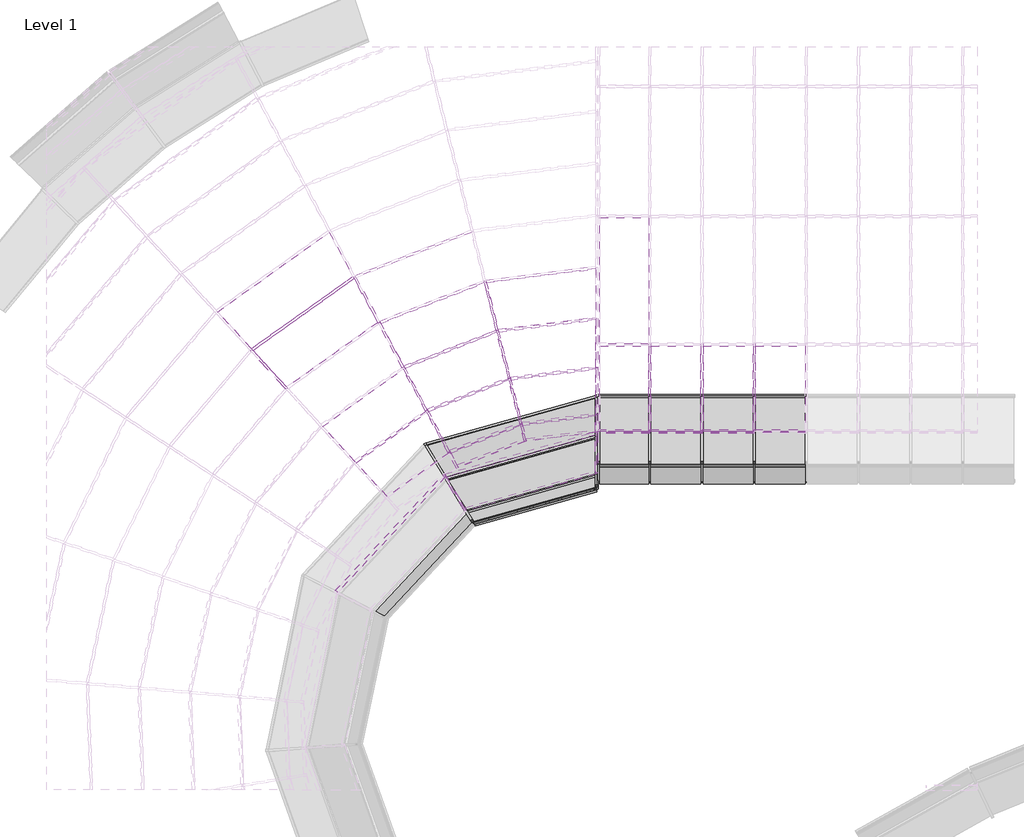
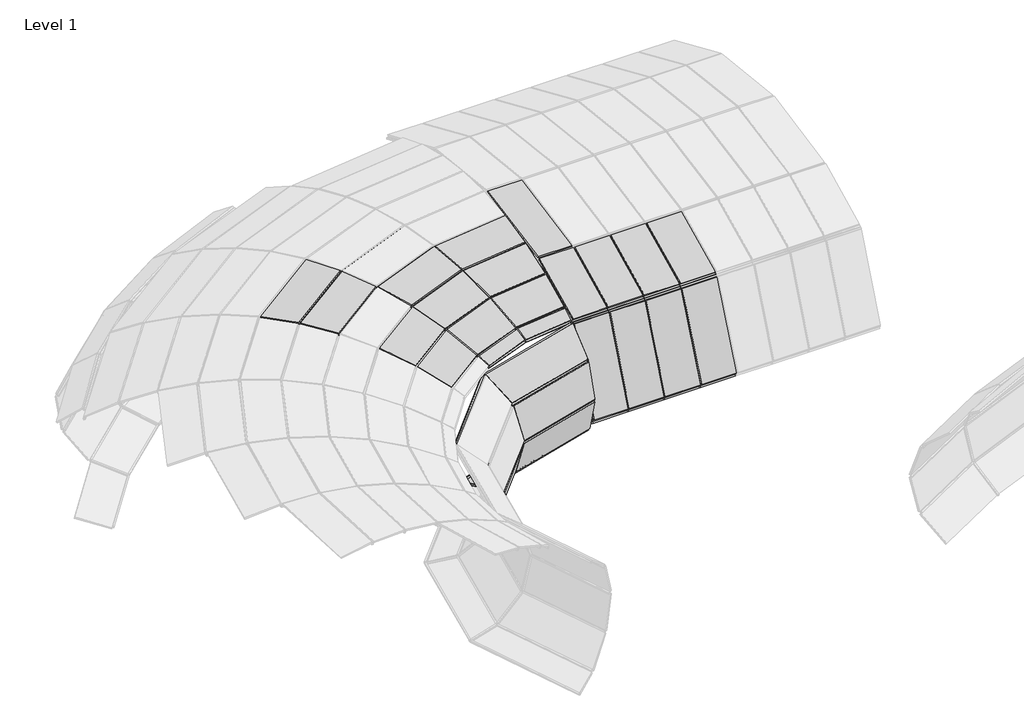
# One storey, part 15 of 23: 68 members, 31 plates.
"""IFC4 building model written with IfcOpenShell, lengths in millimetres."""

from ifc_helpers import new_model, si_unit, origin, place, context, project, spatial, transform, mapped, element, save
from components import member_0cd36c09, member_d0a40a1c, member_ff9adfd2, member_8c9da58c, member_391bee44, member_01ebdf2a, member_d6b8231b, member_c876edb5, member_40c6cd9d, member_782630c7, member_c2ddcf79, member_398e5ff5, member_398607d0, member_5099ef51, member_5ccaa950, member_a32a9cac, member_ff149431, member_8174f0e4, member_5f010dbd, member_0934fb4d, member_48ec9f95, member_f9960f3d, member_231912ba, member_602ccce8, member_4609ab2d, member_513a4f72, member_c8b9029b, member_4f4d7b95, member_a14fa40f, member_7b8779ad, member_ae0b3619, member_4a9ed0f7, member_e2c9c6a0, member_0f8f75f6, member_68981e21, member_3e1f1dd8, member_42213d33, member_25f397f4, member_9fdc8c74, member_14e241b9, system_panel_glazed_1f33159c, system_panel_glazed_b4bd1deb, system_panel_glazed_e8fc26b0, system_panel_glazed_ffd0fcf6, system_panel_glazed_aaff0bff, system_panel_glazed_fd5b3178, system_panel_glazed_84bc3224, system_panel_glazed_7646b435, system_panel_glazed_6cef0b5d, system_panel_glazed_4562f0d4, system_panel_glazed_008d1abf, system_panel_glazed_b2390fc1, system_panel_glazed_b1c1e64b, system_panel_glazed_18224c41, system_panel_glazed_5e00ce77, system_panel_glazed_f007ef7c, system_panel_glazed_efc33f1d, system_panel_glazed_acb1330b, system_panel_glazed_36155e08, system_panel_glazed_4484050c, system_panel_glazed_e9ed01da, system_panel_glazed_2151d693, system_panel_glazed_a8ce3bc7

model = new_model("IFC4")

# Units and contexts
model_context = context("Model", 3, world=origin())
ifc_project = project(units=[si_unit("LENGTHUNIT", "METRE", prefix="MILLI")], contexts=[model_context])

# Site, building, storey
site = spatial("IfcSite", under=ifc_project)
building = spatial("IfcBuilding", under=site)
storey = spatial("IfcBuildingStorey", under=building, Name="Level 1", Elevation=0.0)

# Members
placement = place(None, origin())
member_shape = member_0cd36c09(model_context)
element("IfcMember", 1, ObjectType="Rectangular Mullion : 1\" Square", at=placement, inside=storey, context=model_context, shape_type="MappedRepresentation", body=[
    mapped(member_shape, transform((-11231.3589072, 3870.3783497, 2806.2019711), x_axis=(-0.9695168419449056, -0.24502467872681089, 0.0), y_axis=(0.052313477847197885, -0.20699465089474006, 0.9769424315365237), z_axis=(-0.2393750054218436, 0.9471621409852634, 0.21350289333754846))),
])
element("IfcMember", 2, ObjectType="Rectangular Mullion : 1\" Square", at=placement, inside=storey, context=model_context, shape_type="MappedRepresentation", body=[
    mapped(member_shape, transform((-11085.4359039, 3292.9883085, 2676.0506073), x_axis=(-0.9695168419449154, -0.2450246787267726, 0.0), y_axis=(0.08044178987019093, -0.3182931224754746, 0.9445732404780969), z_axis=(-0.23144375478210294, 0.9157796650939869, 0.32830076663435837))),
])
element("IfcMember", 3, ObjectType="Rectangular Mullion : 1\" Square", at=placement, inside=storey, context=model_context, shape_type="MappedRepresentation", body=[
    mapped(member_shape, transform((-12757.688601, 3922.2566819, 2864.5209769), x_axis=(-0.8799258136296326, -0.4751111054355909, 0.0), y_axis=(0.04545276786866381, -0.08418044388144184, 0.9954133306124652), z_axis=(-0.4729319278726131, 0.8758898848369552, 0.09566766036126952))),
])
element("IfcMember", 4, ObjectType="Rectangular Mullion : 1\" Square", at=placement, inside=storey, context=model_context, shape_type="MappedRepresentation", body=[
    mapped(member_shape, transform((-12469.3892978, 3388.3142081, 2806.2019711), x_axis=(-0.87992581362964, -0.4751111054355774, 0.0), y_axis=(0.10143759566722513, -0.1878667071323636, 0.9769424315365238), z_axis=(-0.46415619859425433, 0.8596368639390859, 0.21350289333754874))),
])
element("IfcMember", 5, ObjectType="Rectangular Mullion : 1\" Square", at=placement, inside=storey, context=model_context, shape_type="MappedRepresentation", body=[
    mapped(member_shape, transform((-12186.4396791, 2864.2795759, 2676.0506073), x_axis=(-0.879925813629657, -0.47511110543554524, 0.0), y_axis=(0.1559793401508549, -0.28888031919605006, 0.9445732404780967), z_axis=(-0.4487772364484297, 0.8311543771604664, 0.32830076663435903))),
])
element("IfcMember", 6, ObjectType="Rectangular Mullion : 1\" Square", at=placement, inside=storey, context=model_context, shape_type="MappedRepresentation", body=[
    mapped(member_shape, transform((-13961.9031139, 3064.6226821, 2864.5209769), x_axis=(-0.7366889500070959, -0.6762317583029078, 0.0), y_axis=(0.0646935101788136, -0.07047730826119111, 0.9954133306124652), z_axis=(-0.6731301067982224, 0.7333100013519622, 0.09566766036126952))),
])
member_2_shape = member_d0a40a1c(model_context)
element("IfcMember", 7, ObjectType="Rectangular Mullion : 1\" Square", at=placement, inside=storey, context=model_context, shape_type="MappedRepresentation", body=[
    mapped(member_2_shape, transform((-10944.347791, 2734.7290247, 2475.91846), x_axis=(-0.9695168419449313, -0.24502467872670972, 0.0), y_axis=(0.10742571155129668, -0.4250634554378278, 0.8987662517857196), z_axis=(-0.22021991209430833, 0.8713690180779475, 0.43842812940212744))),
])
element("IfcMember", 8, ObjectType="Rectangular Mullion : 1\" Square", at=placement, inside=storey, context=model_context, shape_type="MappedRepresentation", body=[
    mapped(member_2_shape, transform((-11912.8650758, 2357.6078676, 2475.91846), x_axis=(-0.8799258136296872, -0.47511110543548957, 0.0), y_axis=(0.2083020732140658, -0.38578422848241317, 0.8987662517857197), z_axis=(-0.42701382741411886, 0.7908476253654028, 0.4384281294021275))),
])
member_3_shape = member_ff9adfd2(model_context)
element("IfcMember", 9, ObjectType="Rectangular Mullion : 1\" Square", at=placement, inside=storey, context=model_context, shape_type="MappedRepresentation", body=[
    mapped(member_3_shape, transform((-10810.1017326, 2203.5424713, 2208.6526723), x_axis=(-0.9695168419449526, -0.2450246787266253, 0.0), y_axis=(0.1253559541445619, -0.49601007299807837, 0.8592205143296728), z_axis=(-0.21053023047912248, 0.8330287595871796, 0.5116054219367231))),
])
element("IfcMember", 10, ObjectType="Rectangular Mullion : 1\" Square", at=placement, inside=storey, context=model_context, shape_type="MappedRepresentation", body=[
    mapped(member_3_shape, transform((-11652.5574466, 1875.5071551, 2208.6526723), x_axis=(-0.8799258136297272, -0.47511110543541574, 0.0), y_axis=(0.24306941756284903, -0.45017481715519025, 0.8592205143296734), z_axis=(-0.408225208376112, 0.7560503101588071, 0.5116054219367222))),
])
member_4_shape = member_8c9da58c(model_context)
element("IfcMember", 11, ObjectType="Rectangular Mullion : 1\" Square", at=placement, inside=storey, context=model_context, shape_type="MappedRepresentation", body=[
    mapped(member_4_shape, transform((-11465.6793889, 1203.5836746, 1696.6281859), x_axis=(-0.8541071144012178, -0.5200971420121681, 0.0), y_axis=(0.49521537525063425, -0.8132461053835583, 0.30560187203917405), z_axis=(-0.15894266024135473, 0.26101673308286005, 0.952159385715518))),
])
element("IfcMember", 12, ObjectType="Rectangular Mullion : 1\" Square", at=placement, inside=storey, context=model_context, shape_type="MappedRepresentation", body=[
    mapped(member_4_shape, transform((-11368.7879432, 1044.4678741, 1116.1918244), x_axis=(-0.8541071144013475, -0.5200971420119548, 0.0), y_axis=(0.5029310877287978, -0.8259169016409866, -0.25479715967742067), z_axis=(0.13251927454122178, -0.2176240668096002, 0.9669945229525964))),
])
member_5_shape = member_391bee44(model_context)
element("IfcMember", 13, ObjectType="Rectangular Mullion : 1\" Square", at=placement, inside=storey, context=model_context, shape_type="MappedRepresentation", body=[
    mapped(member_5_shape, transform((-11449.571693, 1177.1315052, 526.7119632), x_axis=(-0.8541071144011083, -0.5200971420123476, 0.0), y_axis=(0.3525920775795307, -0.5790291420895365, -0.7351218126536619), z_axis=(0.3823347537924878, -0.6278727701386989, 0.6779350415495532))),
])
member_6_shape = member_01ebdf2a(model_context)
element("IfcMember", 14, ObjectType="Rectangular Mullion : 1\" Square", at=placement, inside=storey, context=model_context, shape_type="MappedRepresentation", body=[
    mapped(member_6_shape, transform((-11682.6429589, 1559.8827459, 113.4427618), x_axis=(-0.85410711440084, -0.520097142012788, 0.0), y_axis=(0.11878459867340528, -0.19506888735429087, -0.9735698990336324), z_axis=(0.5063509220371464, -0.831532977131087, 0.22838925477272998))),
])
member_7_shape = member_d6b8231b(model_context)
element("IfcMember", 15, ObjectType="Rectangular Mullion : 1\" Square", at=placement, inside=storey, context=model_context, shape_type="MappedRepresentation", body=[
    mapped(member_7_shape, transform((-11709.796231, 1604.4740366, 2085.6089632), x_axis=(-0.8541071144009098, -0.5200971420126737, 0.0), y_axis=(0.331869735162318, -0.5449987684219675, 0.769960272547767), z_axis=(-0.400454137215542, 0.6576285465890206, 0.6380918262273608))),
])
member_8_shape = member_c876edb5(model_context)
element("IfcMember", 16, ObjectType="Rectangular Mullion : 1\" Square", at=placement, inside=storey, context=model_context, shape_type="MappedRepresentation", body=[
    mapped(member_8_shape, transform((-12174.6051838, 2868.8876904, 2676.0506073), x_axis=(0.34938601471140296, -0.8972882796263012, -0.26982059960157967), y_axis=(0.09790269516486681, -0.2514323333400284, 0.962910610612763), z_axis=(-0.9318500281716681, -0.3628436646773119, 0.0))),
])
member_9_shape = member_40c6cd9d(model_context)
element("IfcMember", 17, ObjectType="Rectangular Mullion : 1\" Square", at=placement, inside=storey, context=model_context, shape_type="MappedRepresentation", body=[
    mapped(member_9_shape, transform((-10931.7449467, 2736.2969259, 2475.91846), x_axis=(0.11409837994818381, -0.9171267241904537, -0.3819163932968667), y_axis=(0.04715017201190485, -0.37899471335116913, 0.9241968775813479), z_axis=(-0.9923499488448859, -0.12345679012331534, 0.0))),
])
member_10_shape = member_782630c7(model_context)
element("IfcMember", 18, ObjectType="Rectangular Mullion : 1\" Square", at=placement, inside=storey, context=model_context, shape_type="MappedRepresentation", body=[
    mapped(member_10_shape, transform((-11901.0305804, 2362.2159821, 2475.91846), x_axis=(0.3353389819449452, -0.8612128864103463, -0.3819163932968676), y_axis=(0.13857594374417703, -0.35588880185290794, 0.9241968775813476), z_axis=(-0.9318500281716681, -0.362843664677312, 0.0))),
])
member_11_shape = member_c2ddcf79(model_context)
element("IfcMember", 19, ObjectType="Rectangular Mullion : 1\" Square", at=placement, inside=storey, context=model_context, shape_type="MappedRepresentation", body=[
    mapped(member_11_shape, transform((-10797.4988883, 2205.1103725, 2208.6526723), x_axis=(0.10770495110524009, -0.8657361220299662, -0.48877460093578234), y_axis=(0.060342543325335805, -0.48503545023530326, 0.8724101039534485), z_axis=(-0.9923499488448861, -0.12345679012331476, 0.0))),
])
member_12_shape = member_398e5ff5(model_context)
element("IfcMember", 20, ObjectType="Rectangular Mullion : 1\" Square", at=placement, inside=storey, context=model_context, shape_type="MappedRepresentation", body=[
    mapped(member_12_shape, transform((-11640.7229512, 1880.1152697, 2208.6526723), x_axis=(0.31654847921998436, -0.8129553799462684, -0.4887746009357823), y_axis=(0.17734876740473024, -0.4554646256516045, 0.8724101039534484), z_axis=(-0.9318500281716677, -0.3628436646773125, 0.0))),
])
member_13_shape = member_398607d0(model_context)
element("IfcMember", 21, ObjectType="Rectangular Mullion : 1\" Square", at=placement, inside=storey, context=model_context, shape_type="MappedRepresentation", body=[
    mapped(member_13_shape, transform((-12745.8541056, 3926.8647965, 2864.5209769), x_axis=(0.3626062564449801, -0.9312403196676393, -0.03616863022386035), y_axis=(0.013123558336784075, -0.0337037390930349, 0.9993457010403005), z_axis=(-0.9318500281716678, -0.362843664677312, 0.0))),
])
element("IfcMember", 22, ObjectType="Rectangular Mullion : 1\" Square", at=placement, inside=storey, context=model_context, shape_type="MappedRepresentation", body=[
    mapped(member_13_shape, transform((-13951.5584731, 3071.9900702, 2864.5209769), x_axis=(0.5797297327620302, -0.8140056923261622, -0.03616863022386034), y_axis=(0.020981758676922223, -0.029460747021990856, 0.9993457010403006), z_axis=(-0.8145386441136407, -0.580109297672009, 0.0))),
])
member_14_shape = member_5099ef51(model_context)
element("IfcMember", 23, ObjectType="Rectangular Mullion : 1\" Square", at=placement, inside=storey, context=model_context, shape_type="MappedRepresentation", body=[
    mapped(member_14_shape, transform((-11218.7560629, 3871.9462509, 2806.2019711), x_axis=(0.12198324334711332, -0.9805055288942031, -0.15404218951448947), y_axis=(0.019017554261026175, -0.1528637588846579, 0.9880642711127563), z_axis=(-0.9923499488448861, -0.12345679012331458, 0.0))),
])
member_15_shape = member_5ccaa950(model_context)
element("IfcMember", 24, ObjectType="Rectangular Mullion : 1\" Square", at=placement, inside=storey, context=model_context, shape_type="MappedRepresentation", body=[
    mapped(member_15_shape, transform((-12457.5548024, 3392.9223227, 2806.2019711), x_axis=(0.35851286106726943, -0.9207277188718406, -0.15404218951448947), y_axis=(0.05589323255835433, -0.14354421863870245, 0.9880642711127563), z_axis=(-0.9318500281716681, -0.3628436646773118, 0.0))),
])
member_16_shape = member_a32a9cac(model_context)
element("IfcMember", 25, ObjectType="Rectangular Mullion : 1\" Square", at=placement, inside=storey, context=model_context, shape_type="MappedRepresentation", body=[
    mapped(member_16_shape, transform((-11072.8330596, 3294.5562098, 2676.0506073), x_axis=(0.11887785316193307, -0.9555442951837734, -0.26982059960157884), y_axis=(0.03331118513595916, -0.2677564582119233, 0.9629106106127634), z_axis=(-0.9923499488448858, -0.12345679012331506, 0.0))),
])
member_17_shape = member_ff149431(model_context)
element("IfcMember", 26, ObjectType="Rectangular Mullion : 1\" Square", at=placement, inside=storey, context=model_context, shape_type="MappedRepresentation", body=[
    mapped(member_17_shape, transform((-10746.8652958, 2004.7627139, 2085.6089632), x_axis=(0.10586239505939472, -0.8509255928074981, -0.5145082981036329), y_axis=(0.06351954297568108, -0.5105722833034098, 0.8574853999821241), z_axis=(-0.9923499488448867, -0.12345679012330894, 0.0))),
])
member_18_shape = member_8174f0e4(model_context)
element("IfcMember", 27, ObjectType="Rectangular Mullion : 1\" Square", at=placement, inside=storey, context=model_context, shape_type="MappedRepresentation", body=[
    mapped(member_18_shape, transform((-11542.5427099, 1698.2813201, 2085.6089632), x_axis=(0.3111331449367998, -0.7990477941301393, -0.5145082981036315), y_axis=(0.18668607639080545, -0.47944457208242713, 0.8574853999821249), z_axis=(-0.9318500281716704, -0.362843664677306, 0.0))),
])
member_19_shape = member_5f010dbd(model_context)
element("IfcMember", 28, ObjectType="Rectangular Mullion : 1\" Square", at=placement, inside=storey, context=model_context, shape_type="MappedRepresentation", body=[
    mapped(member_19_shape, transform((-9912.9499814, 2863.0437014, 2475.91846), x_axis=(0.9991669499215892, 0.01339775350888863, -0.038547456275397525), y_axis=(0.040809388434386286, -0.3280272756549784, 0.9437863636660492), z_axis=(0.0, -0.9445732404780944, -0.3283007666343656))),
])
member_20_shape = member_0934fb4d(model_context)
element("IfcMember", 29, ObjectType="Rectangular Mullion : 1\" Square", at=placement, inside=storey, context=model_context, shape_type="MappedRepresentation", body=[
    mapped(member_20_shape, transform((-9912.9499814, 2315.1557944, 2208.6526723), x_axis=(0.9985157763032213, 0.023878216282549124, -0.0489497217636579), y_axis=(0.054463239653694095, -0.43777740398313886, 0.8974322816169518), z_axis=(0.0, -0.8987662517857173, -0.438428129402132))),
])
member_21_shape = member_48ec9f95(model_context)
element("IfcMember", 30, ObjectType="Rectangular Mullion : 1\" Square", at=placement, inside=storey, context=model_context, shape_type="MappedRepresentation", body=[
    mapped(member_21_shape, transform((-9912.9499814, 2108.5088854, 2085.6089632), x_axis=(0.9979805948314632, 0.03249694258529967, -0.05457729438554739), y_axis=(0.06351954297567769, -0.5105722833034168, 0.85748539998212), z_axis=(0.0, -0.8592205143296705, -0.5116054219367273))),
])
member_22_shape = member_f9960f3d(model_context)
element("IfcMember", 31, ObjectType="Rectangular Mullion : 1\" Square", at=placement, inside=storey, context=model_context, shape_type="MappedRepresentation", body=[
    mapped(member_22_shape, transform((-11356.5599234, 1047.8979662, 1116.1918244), x_axis=(0.007390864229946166, -0.026347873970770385, -0.9996255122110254), y_axis=(0.26998484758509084, -0.962475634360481, 0.02736485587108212), z_axis=(-0.9628362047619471, -0.27008599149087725, 0.0))),
])
member_23_shape = member_231912ba(model_context)
element("IfcMember", 32, ObjectType="Rectangular Mullion : 1\" Square", at=placement, inside=storey, context=model_context, shape_type="MappedRepresentation", body=[
    mapped(member_23_shape, transform((-11921.9234749, 1976.3418904, 0.0), x_axis=(-0.2624096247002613, 0.9354705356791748, -0.23671938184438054), y_axis=(0.0639345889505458, -0.2279219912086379, -0.9715780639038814), z_axis=(-0.9628362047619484, -0.27008599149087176, 0.0))),
])
member_24_shape = member_602ccce8(model_context)
element("IfcMember", 33, ObjectType="Rectangular Mullion : 1\" Square", at=placement, inside=storey, context=model_context, shape_type="MappedRepresentation", body=[
    mapped(member_24_shape, transform((-11437.3436732, 1180.5615973, 526.7119632), x_axis=(-0.1426560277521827, 0.5085579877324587, -0.8491278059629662), y_axis=(0.22933752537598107, -0.8175709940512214, -0.5281874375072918), z_axis=(-0.962836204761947, -0.27008599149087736, 0.0))),
])
member_25_shape = member_4609ab2d(model_context)
element("IfcMember", 34, ObjectType="Rectangular Mullion : 1\" Square", at=placement, inside=storey, context=model_context, shape_type="MappedRepresentation", body=[
    mapped(member_25_shape, transform((-11670.4149391, 1563.312838, 113.4427618), x_axis=(-0.24330787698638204, 0.8673742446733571, -0.4341234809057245), y_axis=(0.11725067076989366, -0.4179898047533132, -0.9008533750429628), z_axis=(-0.962836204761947, -0.27008599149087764, 0.0))),
])
member_26_shape = member_513a4f72(model_context)
element("IfcMember", 35, ObjectType="Rectangular Mullion : 1\" Square", at=placement, inside=storey, context=model_context, shape_type="MappedRepresentation", body=[
    mapped(member_26_shape, transform((-11453.4513691, 1207.0137667, 1696.6281859), x_axis=(0.1547369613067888, -0.5516256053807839, -0.8196131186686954), y_axis=(0.2213660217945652, -0.78915318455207, 0.572917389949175), z_axis=(-0.9628362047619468, -0.27008599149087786, 0.0))),
])
member_27_shape = member_c8b9029b(model_context)
element("IfcMember", 36, ObjectType="Rectangular Mullion : 1\" Square", at=placement, inside=storey, context=model_context, shape_type="MappedRepresentation", body=[
    mapped(member_27_shape, transform((-11718.4562886, 1595.1846124, 2085.6089632), x_axis=(-0.5543774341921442, 0.5168178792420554, 0.652353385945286), y_axis=(0.47716435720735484, -0.4448360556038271, 0.7579149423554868), z_axis=(0.6818943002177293, 0.7314507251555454, 0.0))),
])
member_28_shape = member_4f4d7b95(model_context)
element("IfcMember", 37, ObjectType="Rectangular Mullion : 1\" Square", at=placement, inside=storey, context=model_context, shape_type="MappedRepresentation", body=[
    mapped(member_28_shape, transform((-9937.406021, 2101.6487012, 2085.6089632), x_axis=(-0.2047022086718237, 0.7297479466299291, 0.652353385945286), y_axis=(0.17619151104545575, -0.628109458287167, 0.7579149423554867), z_axis=(0.9628362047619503, 0.2700859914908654, 0.0))),
])
member_29_shape = member_a14fa40f(model_context)
element("IfcMember", 38, ObjectType="Rectangular Mullion : 1\" Square", at=placement, inside=storey, context=model_context, shape_type="MappedRepresentation", body=[
    mapped(member_29_shape, transform((-9912.9499814, 2539.8807303, 0.0), x_axis=(0.9979540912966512, 0.014601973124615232, 0.0622447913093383), y_axis=(0.06393458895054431, -0.22792199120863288, -0.9715780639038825), z_axis=(0.0, 0.9735698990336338, -0.22838925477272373))),
])
member_30_shape = member_7b8779ad(model_context)
element("IfcMember", 39, ObjectType="Rectangular Mullion : 1\" Square", at=placement, inside=storey, context=model_context, shape_type="MappedRepresentation", body=[
    mapped(member_30_shape, transform((-9912.9499814, 1639.1411032, 1696.6281859), x_axis=(0.9843559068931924, 0.11242636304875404, -0.13566046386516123), y_axis=(0.17619151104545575, -0.6281094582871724, 0.7579149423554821), z_axis=(0.0, -0.7699602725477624, -0.6380918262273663))),
])
member_31_shape = member_ae0b3619(model_context)
element("IfcMember", 40, ObjectType="Rectangular Mullion : 1\" Square", at=placement, inside=storey, context=model_context, shape_type="MappedRepresentation", body=[
    mapped(member_31_shape, transform((-9912.9499814, 1452.846202, 1116.1918244), x_axis=(0.9661327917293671, 0.24570035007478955, -0.07885915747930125), y_axis=(0.25804540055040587, -0.9199124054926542, 0.2952519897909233), z_axis=(0.0, -0.30560187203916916, -0.9521593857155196))),
])
member_32_shape = member_4a9ed0f7(model_context)
element("IfcMember", 41, ObjectType="Rectangular Mullion : 1\" Square", at=placement, inside=storey, context=model_context, shape_type="MappedRepresentation", body=[
    mapped(member_32_shape, transform((-9912.9499814, 1608.1705506, 526.7119632), x_axis=(0.9651242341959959, 0.25315172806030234, 0.06670393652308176), y_axis=(0.2617923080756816, -0.933269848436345, -0.2459109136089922), z_axis=(0.0, 0.2547971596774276, -0.9669945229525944))),
])
member_33_shape = member_e2c9c6a0(model_context)
element("IfcMember", 42, ObjectType="Rectangular Mullion : 1\" Square", at=placement, inside=storey, context=model_context, shape_type="MappedRepresentation", body=[
    mapped(member_33_shape, transform((-9912.9499814, 2056.3008076, 113.4427618), x_axis=(0.9823941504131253, 0.12665186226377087, 0.13733549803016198), y_axis=(0.18682005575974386, -0.665999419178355, -0.7221793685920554), z_axis=(0.0, 0.7351218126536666, -0.6779350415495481))),
])
member_34_shape = member_0f8f75f6(model_context)
element("IfcMember", 43, ObjectType="Rectangular Mullion : 1\" Square", at=placement, inside=storey, context=model_context, shape_type="MappedRepresentation", body=[
    mapped(member_34_shape, transform((-8693.7499814, 2518.7804857, 14.1400027), x_axis=(1.0, 0.0, 0.0), y_axis=(0.0, -0.5566930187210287, -0.8307182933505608), z_axis=(0.0, 0.8307182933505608, -0.5566930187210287))),
])
element("IfcMember", 44, ObjectType="Rectangular Mullion : 1\" Square", at=placement, inside=storey, context=model_context, shape_type="MappedRepresentation", body=[
    mapped(member_34_shape, transform((-9303.3499814, 2518.7804857, 14.1400027), x_axis=(1.0, 0.0, 0.0), y_axis=(0.0, -0.5566930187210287, -0.8307182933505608), z_axis=(0.0, 0.8307182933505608, -0.5566930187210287))),
])
element("IfcMember", 45, ObjectType="Rectangular Mullion : 1\" Square", at=placement, inside=storey, context=model_context, shape_type="MappedRepresentation", body=[
    mapped(member_34_shape, transform((-8084.1499814, 2518.7804857, 14.1400027), x_axis=(1.0, 0.0, 0.0), y_axis=(0.0, -0.5566930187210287, -0.8307182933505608), z_axis=(0.0, 0.8307182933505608, -0.5566930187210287))),
])
member_35_shape = member_68981e21(model_context)
element("IfcMember", 46, ObjectType="Rectangular Mullion : 1\" Square", at=placement, inside=storey, context=model_context, shape_type="MappedRepresentation", body=[
    mapped(member_35_shape, transform((-9303.3499814, 2539.8807303, 0.0), x_axis=(0.0, 0.8307182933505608, -0.5566930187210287), y_axis=(0.0, -0.5566930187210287, -0.8307182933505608), z_axis=(-1.0, 0.0, 0.0))),
])
element("IfcMember", 47, ObjectType="Rectangular Mullion : 1\" Square", at=placement, inside=storey, context=model_context, shape_type="MappedRepresentation", body=[
    mapped(member_35_shape, transform((-8693.7499814, 2539.8807303, 0.0), x_axis=(0.0, 0.8307182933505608, -0.5566930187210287), y_axis=(0.0, -0.5566930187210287, -0.8307182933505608), z_axis=(-1.0, 0.0, 0.0))),
])
element("IfcMember", 48, ObjectType="Rectangular Mullion : 1\" Square", at=placement, inside=storey, context=model_context, shape_type="MappedRepresentation", body=[
    mapped(member_35_shape, transform((-8084.1499814, 2539.8807303, 0.0), x_axis=(0.0, 0.8307182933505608, -0.5566930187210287), y_axis=(0.0, -0.5566930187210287, -0.8307182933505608), z_axis=(-1.0, 0.0, 0.0))),
])
element("IfcMember", 49, ObjectType="Rectangular Mullion : 1\" Square", at=placement, inside=storey, context=model_context, shape_type="MappedRepresentation", body=[
    mapped(member_35_shape, transform((-9303.3499814, 2108.5088854, 2085.6089632), x_axis=(0.0, -0.9009025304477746, -0.4340214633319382), y_axis=(0.0, -0.4340214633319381, 0.9009025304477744), z_axis=(-1.0, 0.0, 0.0))),
])
element("IfcMember", 50, ObjectType="Rectangular Mullion : 1\" Square", at=placement, inside=storey, context=model_context, shape_type="MappedRepresentation", body=[
    mapped(member_35_shape, transform((-8693.7499814, 2108.5088854, 2085.6089632), x_axis=(0.0, -0.9009025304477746, -0.4340214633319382), y_axis=(0.0, -0.4340214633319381, 0.9009025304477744), z_axis=(-1.0, 0.0, 0.0))),
])
element("IfcMember", 51, ObjectType="Rectangular Mullion : 1\" Square", at=placement, inside=storey, context=model_context, shape_type="MappedRepresentation", body=[
    mapped(member_35_shape, transform((-8084.1499814, 2108.5088854, 2085.6089632), x_axis=(0.0, -0.9009025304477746, -0.4340214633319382), y_axis=(0.0, -0.4340214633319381, 0.9009025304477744), z_axis=(-1.0, 0.0, 0.0))),
])
member_36_shape = member_3e1f1dd8(model_context)
element("IfcMember", 52, ObjectType="Rectangular Mullion : 1\" Square", at=placement, inside=storey, context=model_context, shape_type="MappedRepresentation", body=[
    mapped(member_36_shape, transform((-9303.3499814, 1534.1192339, 673.9955146), x_axis=(0.0, 0.38018576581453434, -0.9249101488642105), y_axis=(0.0, -0.9249101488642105, -0.38018576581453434), z_axis=(-1.0, 0.0, 0.0))),
])
element("IfcMember", 53, ObjectType="Rectangular Mullion : 1\" Square", at=placement, inside=storey, context=model_context, shape_type="MappedRepresentation", body=[
    mapped(member_36_shape, transform((-8693.7499814, 1534.1192339, 673.9955146), x_axis=(0.0, 0.38018576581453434, -0.9249101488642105), y_axis=(0.0, -0.9249101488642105, -0.38018576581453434), z_axis=(-1.0, 0.0, 0.0))),
])
element("IfcMember", 54, ObjectType="Rectangular Mullion : 1\" Square", at=placement, inside=storey, context=model_context, shape_type="MappedRepresentation", body=[
    mapped(member_36_shape, transform((-8084.1499814, 1534.1192339, 673.9955146), x_axis=(0.0, 0.38018576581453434, -0.9249101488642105), y_axis=(0.0, -0.9249101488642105, -0.38018576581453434), z_axis=(-1.0, 0.0, 0.0))),
])
element("IfcMember", 55, ObjectType="Rectangular Mullion : 1\" Square", at=placement, inside=storey, context=model_context, shape_type="MappedRepresentation", body=[
    mapped(member_36_shape, transform((-9912.9499814, 1534.1192339, 673.9955146), x_axis=(0.0, 0.38018576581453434, -0.9249101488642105), y_axis=(0.0, -0.9249101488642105, -0.38018576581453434), z_axis=(-1.0, 0.0, 0.0))),
])
member_37_shape = member_42213d33(model_context)
element("IfcMember", 56, ObjectType="Rectangular Mullion : 1\" Square", at=placement, inside=storey, context=model_context, shape_type="MappedRepresentation", body=[
    mapped(member_37_shape, transform((-9303.3499814, 1538.9058143, 685.75896), x_axis=(1.0, 0.0, 0.0), y_axis=(0.0, -0.9262555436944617, 0.37689609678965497), z_axis=(0.0, -0.3768960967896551, -0.926255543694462))),
])
element("IfcMember", 57, ObjectType="Rectangular Mullion : 1\" Square", at=placement, inside=storey, context=model_context, shape_type="MappedRepresentation", body=[
    mapped(member_37_shape, transform((-8693.7499814, 1538.9058143, 685.75896), x_axis=(1.0, 0.0, 0.0), y_axis=(0.0, -0.926255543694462, 0.3768960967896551), z_axis=(0.0, -0.37689609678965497, -0.9262555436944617))),
])
element("IfcMember", 58, ObjectType="Rectangular Mullion : 1\" Square", at=placement, inside=storey, context=model_context, shape_type="MappedRepresentation", body=[
    mapped(member_37_shape, transform((-8084.1499814, 1538.9058143, 685.75896), x_axis=(1.0, 0.0, 0.0), y_axis=(0.0, -0.926255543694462, 0.3768960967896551), z_axis=(0.0, -0.37689609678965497, -0.9262555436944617))),
])
element("IfcMember", 59, ObjectType="Rectangular Mullion : 1\" Square", at=placement, inside=storey, context=model_context, shape_type="MappedRepresentation", body=[
    mapped(member_35_shape, transform((-9912.9499814, 2539.8807303, 0.0), x_axis=(0.0, 0.8307182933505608, -0.5566930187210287), y_axis=(0.0, -0.5566930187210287, -0.8307182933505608), z_axis=(-1.0, 0.0, 0.0))),
])
element("IfcMember", 60, ObjectType="Rectangular Mullion : 1\" Square", at=placement, inside=storey, context=model_context, shape_type="MappedRepresentation", body=[
    mapped(member_35_shape, transform((-9912.9499814, 2108.5088854, 2085.6089632), x_axis=(0.0, -0.9009025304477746, -0.4340214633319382), y_axis=(0.0, -0.4340214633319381, 0.9009025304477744), z_axis=(-1.0, 0.0, 0.0))),
])
member_38_shape = member_25f397f4(model_context)
element("IfcMember", 61, ObjectType="Rectangular Mullion : 1\" Square", at=placement, inside=storey, context=model_context, shape_type="MappedRepresentation", body=[
    mapped(member_38_shape, transform((-9912.9499814, 2098.9357245, 2062.0820723), x_axis=(-1.0, 0.0, 0.0), y_axis=(0.0, -0.9262555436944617, 0.37689609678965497), z_axis=(0.0, 0.3768960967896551, 0.926255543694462))),
])
element("IfcMember", 62, ObjectType="Rectangular Mullion : 1\" Square", at=placement, inside=storey, context=model_context, shape_type="MappedRepresentation", body=[
    mapped(member_35_shape, transform((-8693.7499814, 2108.5088854, 2085.6089632), x_axis=(0.0, 0.37689609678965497, 0.9262555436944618), y_axis=(0.0, -0.9262555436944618, 0.37689609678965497), z_axis=(1.0, 0.0, 0.0))),
])
element("IfcMember", 63, ObjectType="Rectangular Mullion : 1\" Square", at=placement, inside=storey, context=model_context, shape_type="MappedRepresentation", body=[
    mapped(member_35_shape, transform((-8084.1499814, 2108.5088854, 2085.6089632), x_axis=(0.0, 0.37689609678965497, 0.9262555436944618), y_axis=(0.0, -0.9262555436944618, 0.37689609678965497), z_axis=(1.0, 0.0, 0.0))),
])
member_39_shape = member_9fdc8c74(model_context)
element("IfcMember", 64, ObjectType="Rectangular Mullion : 1\" Square", at=placement, inside=storey, context=model_context, shape_type="MappedRepresentation", body=[
    mapped(member_39_shape, transform((-9912.9499814, 1544.6693562, 666.9255132), x_axis=(-1.0, 0.0, 0.0), y_axis=(0.0, -0.5566930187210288, -0.8307182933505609), z_axis=(0.0, -0.8307182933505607, 0.5566930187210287))),
])
element("IfcMember", 65, ObjectType="Rectangular Mullion : 1\" Square", at=placement, inside=storey, context=model_context, shape_type="MappedRepresentation", body=[
    mapped(member_35_shape, transform((-9303.3499814, 2108.5088854, 2085.6089632), x_axis=(0.0, 0.3768960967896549, 0.9262555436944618), y_axis=(0.0, -0.9262555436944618, 0.3768960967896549), z_axis=(1.0, 0.0, 0.0))),
])
member_40_shape = member_14e241b9(model_context)
element("IfcMember", 66, ObjectType="Rectangular Mullion : 1\" Square", at=placement, inside=storey, context=model_context, shape_type="MappedRepresentation", body=[
    mapped(member_40_shape, transform((-9303.3499814, 2131.3918096, 2096.6331083), x_axis=(1.0, 0.0, 0.0), y_axis=(0.0, -0.4340214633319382, 0.9009025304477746), z_axis=(0.0, -0.9009025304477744, -0.4340214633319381))),
])
element("IfcMember", 67, ObjectType="Rectangular Mullion : 1\" Square", at=placement, inside=storey, context=model_context, shape_type="MappedRepresentation", body=[
    mapped(member_40_shape, transform((-8084.1499814, 2131.3918096, 2096.6331083), x_axis=(1.0, 0.0, 0.0), y_axis=(0.0, -0.4340214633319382, 0.9009025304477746), z_axis=(0.0, -0.9009025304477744, -0.4340214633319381))),
])
element("IfcMember", 68, ObjectType="Rectangular Mullion : 1\" Square", at=placement, inside=storey, context=model_context, shape_type="MappedRepresentation", body=[
    mapped(member_40_shape, transform((-8693.7499814, 2131.3918096, 2096.6331083), x_axis=(1.0, 0.0, 0.0), y_axis=(0.0, -0.4340214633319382, 0.9009025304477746), z_axis=(0.0, -0.9009025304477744, -0.4340214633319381))),
])

# Plates
system_panel_glazed_shape = system_panel_glazed_1f33159c(model_context)
element("IfcPlate", 69, ObjectType="System Panel : Glazed", at=placement, inside=storey, context=model_context, shape_type="MappedRepresentation", body=[
    mapped(system_panel_glazed_shape, transform((-13703.2626958, 3975.7057204, 2850.4790751), x_axis=(-0.8145386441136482, -0.5801092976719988, 0.0), y_axis=(0.013754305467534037, -0.01931259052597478, -0.9997188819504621), z_axis=(0.5799462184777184, -0.8143096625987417, 0.023709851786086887))),
])
system_panel_glazed_2_shape = system_panel_glazed_b4bd1deb(model_context)
element("IfcPlate", 70, ObjectType="System Panel : Glazed", at=placement, inside=storey, context=model_context, shape_type="MappedRepresentation", body=[
    mapped(system_panel_glazed_2_shape, transform((-13352.4627805, 3483.1432179, 2863.296718), x_axis=(-0.8145386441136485, -0.5801092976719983, 0.0), y_axis=(-0.05592157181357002, 0.0785201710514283, -0.9953428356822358), z_axis=(0.577407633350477, -0.8107452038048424, -0.09639833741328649))),
])
system_panel_glazed_3_shape = system_panel_glazed_e8fc26b0(model_context)
element("IfcPlate", 71, ObjectType="System Panel : Glazed", at=placement, inside=storey, context=model_context, shape_type="MappedRepresentation", body=[
    mapped(system_panel_glazed_3_shape, transform((-10576.9709963, 3939.2913744, 2803.4705448), x_axis=(-0.9923499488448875, -0.12345679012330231, 0.0), y_axis=(-0.026552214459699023, 0.21342761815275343, -0.9765979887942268), z_axis=(0.120567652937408, -0.969126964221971, -0.21507293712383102))),
])
system_panel_glazed_4_shape = system_panel_glazed_ffd0fcf6(model_context)
element("IfcPlate", 72, ObjectType="System Panel : Glazed", at=placement, inside=storey, context=model_context, shape_type="MappedRepresentation", body=[
    mapped(system_panel_glazed_4_shape, transform((-11845.8738271, 3617.7887345, 2803.4705448), x_axis=(-0.9318500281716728, -0.36284366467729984, 0.0), y_axis=(-0.0780378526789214, 0.2004157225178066, -0.9765979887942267), z_axis=(0.3543523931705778, -0.9100428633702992, -0.21507293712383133))),
])
system_panel_glazed_5_shape = system_panel_glazed_aaff0bff(model_context)
element("IfcPlate", 73, ObjectType="System Panel : Glazed", at=placement, inside=storey, context=model_context, shape_type="MappedRepresentation", body=[
    mapped(system_panel_glazed_5_shape, transform((-10504.057889, 3353.2382, 2671.8525455), x_axis=(-0.9923499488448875, -0.12345679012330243, 0.0), y_axis=(-0.04080938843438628, 0.32802727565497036, -0.9437863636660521), z_axis=(0.1165168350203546, -0.9365663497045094, -0.3305560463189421))),
])
system_panel_glazed_6_shape = system_panel_glazed_fd5b3178(model_context)
element("IfcPlate", 74, ObjectType="System Panel : Glazed", at=placement, inside=storey, context=model_context, shape_type="MappedRepresentation", body=[
    mapped(system_panel_glazed_6_shape, transform((-11631.5887159, 3067.4647069, 2671.8525455), x_axis=(-0.9318500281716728, -0.36284366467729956, 0.0), y_axis=(-0.11994016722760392, 0.3080286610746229, -0.9437863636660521), z_axis=(0.34244690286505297, -0.8794673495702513, -0.330556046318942))),
])
element("IfcPlate", 75, ObjectType="System Panel : Glazed", at=placement, inside=storey, context=model_context, shape_type="MappedRepresentation", body=[
    mapped(system_panel_glazed_6_shape, transform((-12660.6851805, 2511.8097285, 2671.8525455), x_axis=(-0.8145386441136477, -0.5801092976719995, 0.0), y_axis=(-0.19175863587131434, 0.2692506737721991, -0.9437863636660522), z_axis=(0.5474992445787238, -0.7687504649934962, -0.330556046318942))),
])
system_panel_glazed_7_shape = system_panel_glazed_84bc3224(model_context)
element("IfcPlate", 76, ObjectType="System Panel : Glazed", at=placement, inside=storey, context=model_context, shape_type="MappedRepresentation", body=[
    mapped(system_panel_glazed_7_shape, transform((-10433.5823762, 2786.7873421, 2470.3158265), x_axis=(-0.9923499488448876, -0.12345679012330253, 0.0), y_axis=(-0.05446323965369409, 0.4377774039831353, -0.8974322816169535), z_axis=(0.11079410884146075, -0.8905668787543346, -0.44115224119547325))),
])
system_panel_glazed_8_shape = system_panel_glazed_7646b435(model_context)
element("IfcPlate", 77, ObjectType="System Panel : Glazed", at=placement, inside=storey, context=model_context, shape_type="MappedRepresentation", body=[
    mapped(system_panel_glazed_8_shape, transform((-11424.4709627, 2535.5477879, 2470.3158265), x_axis=(-0.9318500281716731, -0.3628436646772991, 0.0), y_axis=(-0.16006929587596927, 0.4110877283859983, -0.8974322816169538), z_axis=(0.3256276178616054, -0.836272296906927, -0.441152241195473))),
])
element("IfcPlate", 78, ObjectType="System Panel : Glazed", at=placement, inside=storey, context=model_context, shape_type="MappedRepresentation", body=[
    mapped(system_panel_glazed_8_shape, transform((-12329.5482583, 2046.8562781, 2470.3158265), x_axis=(-0.8145386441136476, -0.5801092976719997, 0.0), y_axis=(-0.2559165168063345, 0.35933554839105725, -0.8974322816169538), z_axis=(0.5206088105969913, -0.7309932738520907, -0.44115224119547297))),
])
system_panel_glazed_9_shape = system_panel_glazed_6cef0b5d(model_context)
element("IfcPlate", 79, ObjectType="System Panel : Glazed", at=placement, inside=storey, context=model_context, shape_type="MappedRepresentation", body=[
    mapped(system_panel_glazed_9_shape, transform((-10366.5185814, 2247.753979, 2202.1184169), x_axis=(-0.9923499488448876, -0.12345679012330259, 0.0), y_axis=(-0.0635195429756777, 0.5105722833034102, -0.8574853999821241), z_axis=(0.1058623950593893, -0.8509255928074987, -0.5145082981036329))),
])
system_panel_glazed_10_shape = system_panel_glazed_4562f0d4(model_context)
element("IfcPlate", 80, ObjectType="System Panel : Glazed", at=placement, inside=storey, context=model_context, shape_type="MappedRepresentation", body=[
    mapped(system_panel_glazed_10_shape, transform((-11227.3781987, 2029.3769062, 2202.1184169), x_axis=(-0.9318500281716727, -0.3628436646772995, 0.0), y_axis=(-0.18668607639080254, 0.47944457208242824, -0.8574853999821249), z_axis=(0.311133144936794, -0.7990477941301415, -0.5145082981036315))),
])
system_panel_glazed_11_shape = system_panel_glazed_008d1abf(model_context)
element("IfcPlate", 81, ObjectType="System Panel : Glazed", at=placement, inside=storey, context=model_context, shape_type="MappedRepresentation", body=[
    mapped(system_panel_glazed_11_shape, transform((-10812.4243301, 1836.2024852, 2069.0391872), x_axis=(-0.9628362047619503, -0.27008599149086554, 0.0), y_axis=(-0.17619151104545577, 0.628109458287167, -0.7579149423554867), z_axis=(0.20470220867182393, -0.7297479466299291, -0.6523533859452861))),
])
system_panel_glazed_12_shape = system_panel_glazed_b2390fc1(model_context)
element("IfcPlate", 82, ObjectType="System Panel : Glazed", at=placement, inside=storey, context=model_context, shape_type="MappedRepresentation", body=[
    mapped(system_panel_glazed_12_shape, transform((-10694.4368869, 1416.0311236, 1684.4943593), x_axis=(-0.9628362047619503, -0.2700859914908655, 0.0), y_axis=(-0.2580454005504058, 0.919912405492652, -0.2952519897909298), z_axis=(0.07974342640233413, -0.284279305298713, -0.9554194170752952))),
])
system_panel_glazed_13_shape = system_panel_glazed_b1c1e64b(model_context)
element("IfcPlate", 83, ObjectType="System Panel : Glazed", at=placement, inside=storey, context=model_context, shape_type="MappedRepresentation", body=[
    mapped(system_panel_glazed_13_shape, transform((-10647.8409983, 1249.94492, 1103.8818104), x_axis=(-0.9628362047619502, -0.2700859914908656, 0.0), y_axis=(-0.2617923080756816, 0.9332698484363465, 0.24591091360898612), z_axis=(-0.06641709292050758, 0.23677193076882, -0.969292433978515))),
])
system_panel_glazed_14_shape = system_panel_glazed_18224c41(model_context)
element("IfcPlate", 84, ObjectType="System Panel : Glazed", at=placement, inside=storey, context=model_context, shape_type="MappedRepresentation", body=[
    mapped(system_panel_glazed_14_shape, transform((-11886.5948937, 493.6094775, 1103.8818104), x_axis=(-0.68189430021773, -0.7314507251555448, 0.0), y_axis=(-0.7089896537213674, 0.6609549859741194, 0.24591091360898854), z_axis=(-0.17987171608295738, 0.16768525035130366, -0.9692924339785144))),
])
system_panel_glazed_15_shape = system_panel_glazed_5e00ce77(model_context)
element("IfcPlate", 85, ObjectType="System Panel : Glazed", at=placement, inside=storey, context=model_context, shape_type="MappedRepresentation", body=[
    mapped(system_panel_glazed_15_shape, transform((-10689.9761818, 1399.731968, 517.9272991), x_axis=(-0.9628362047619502, -0.2700859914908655, 0.0), y_axis=(-0.1868200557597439, 0.6659994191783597, 0.7221793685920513), z_axis=(-0.19505053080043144, 0.6953404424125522, -0.6917058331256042))),
])
system_panel_glazed_16_shape = system_panel_glazed_f007ef7c(model_context)
element("IfcPlate", 86, ObjectType="System Panel : Glazed", at=placement, inside=storey, context=model_context, shape_type="MappedRepresentation", body=[
    mapped(system_panel_glazed_16_shape, transform((-10807.4660809, 1818.194653, 110.4364257), x_axis=(-0.9628362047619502, -0.27008599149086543, 0.0), y_axis=(-0.06393458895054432, 0.22792199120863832, 0.9715780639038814), z_axis=(-0.2624096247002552, 0.9354705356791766, -0.23671938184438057))),
])
system_panel_glazed_17_shape = system_panel_glazed_efc33f1d(model_context)
element("IfcPlate", 87, ObjectType="System Panel : Glazed", at=placement, inside=storey, context=model_context, shape_type="MappedRepresentation", body=[
    mapped(system_panel_glazed_17_shape, transform((-9887.5499814, 1818.9207694, 1373.9205162), x_axis=(0.0, -0.3768960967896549, -0.9262555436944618), y_axis=(0.0, 0.9262555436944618, -0.3768960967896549), z_axis=(1.0, 0.0, 0.0))),
])
system_panel_glazed_18_shape = system_panel_glazed_acb1330b(model_context)
element("IfcPlate", 88, ObjectType="System Panel : Glazed", at=placement, inside=storey, context=model_context, shape_type="MappedRepresentation", body=[
    mapped(system_panel_glazed_18_shape, transform((-9887.5499814, 2031.7249209, 340.532758), x_axis=(0.0, 0.8307182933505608, -0.5566930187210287), y_axis=(0.0, 0.5566930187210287, 0.8307182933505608), z_axis=(1.0, 0.0, 0.0))),
])
system_panel_glazed_19_shape = system_panel_glazed_36155e08(model_context)
element("IfcPlate", 89, ObjectType="System Panel : Glazed", at=placement, inside=storey, context=model_context, shape_type="MappedRepresentation", body=[
    mapped(system_panel_glazed_19_shape, transform((-9290.6499814, 1818.9207694, 1373.9205162), x_axis=(0.0, -0.37689609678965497, -0.9262555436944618), y_axis=(0.0, 0.9262555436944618, -0.37689609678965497), z_axis=(1.0, 0.0, 0.0))),
])
element("IfcPlate", 90, ObjectType="System Panel : Glazed", at=placement, inside=storey, context=model_context, shape_type="MappedRepresentation", body=[
    mapped(system_panel_glazed_19_shape, transform((-8681.0499814, 1818.9207694, 1373.9205162), x_axis=(0.0, -0.37689609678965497, -0.9262555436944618), y_axis=(0.0, 0.9262555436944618, -0.37689609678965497), z_axis=(1.0, 0.0, 0.0))),
])
element("IfcPlate", 91, ObjectType="System Panel : Glazed", at=placement, inside=storey, context=model_context, shape_type="MappedRepresentation", body=[
    mapped(system_panel_glazed_19_shape, transform((-8071.4499814, 1818.9207694, 1373.9205162), x_axis=(0.0, -0.37689609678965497, -0.9262555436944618), y_axis=(0.0, 0.9262555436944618, -0.37689609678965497), z_axis=(1.0, 0.0, 0.0))),
])
system_panel_glazed_20_shape = system_panel_glazed_4484050c(model_context)
element("IfcPlate", 92, ObjectType="System Panel : Glazed", at=placement, inside=storey, context=model_context, shape_type="MappedRepresentation", body=[
    mapped(system_panel_glazed_20_shape, transform((-9290.6499814, 2031.7249209, 340.532758), x_axis=(0.0, 0.8307182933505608, -0.5566930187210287), y_axis=(0.0, 0.5566930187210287, 0.8307182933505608), z_axis=(1.0, 0.0, 0.0))),
])
element("IfcPlate", 93, ObjectType="System Panel : Glazed", at=placement, inside=storey, context=model_context, shape_type="MappedRepresentation", body=[
    mapped(system_panel_glazed_20_shape, transform((-8681.0499814, 2031.7249209, 340.532758), x_axis=(0.0, 0.8307182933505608, -0.5566930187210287), y_axis=(0.0, 0.5566930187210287, 0.8307182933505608), z_axis=(1.0, 0.0, 0.0))),
])
element("IfcPlate", 94, ObjectType="System Panel : Glazed", at=placement, inside=storey, context=model_context, shape_type="MappedRepresentation", body=[
    mapped(system_panel_glazed_20_shape, transform((-8071.4499814, 2031.7249209, 340.532758), x_axis=(0.0, 0.8307182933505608, -0.5566930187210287), y_axis=(0.0, 0.5566930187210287, 0.8307182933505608), z_axis=(1.0, 0.0, 0.0))),
])
system_panel_glazed_21_shape = system_panel_glazed_e9ed01da(model_context)
element("IfcPlate", 95, ObjectType="System Panel : Glazed", at=placement, inside=storey, context=model_context, shape_type="MappedRepresentation", body=[
    mapped(system_panel_glazed_21_shape, transform((-9887.5499814, 3882.992753, 2721.9985635), x_axis=(0.0, -0.9824415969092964, -0.18657038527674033), y_axis=(0.0, 0.18657038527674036, -0.9824415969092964), z_axis=(1.0, 0.0, 0.0))),
])
system_panel_glazed_22_shape = system_panel_glazed_2151d693(model_context)
element("IfcPlate", 96, ObjectType="System Panel : Glazed", at=placement, inside=storey, context=model_context, shape_type="MappedRepresentation", body=[
    mapped(system_panel_glazed_22_shape, transform((-9887.5499814, 2627.1613018, 2335.4764828), x_axis=(0.0, -0.9009025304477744, -0.4340214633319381), y_axis=(0.0, 0.4340214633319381, -0.9009025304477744), z_axis=(1.0, 0.0, 0.0))),
])
system_panel_glazed_23_shape = system_panel_glazed_a8ce3bc7(model_context)
element("IfcPlate", 97, ObjectType="System Panel : Glazed", at=placement, inside=storey, context=model_context, shape_type="MappedRepresentation", body=[
    mapped(system_panel_glazed_23_shape, transform((-9290.6499814, 2627.1613018, 2335.4764828), x_axis=(0.0, -0.9009025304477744, -0.4340214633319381), y_axis=(0.0, 0.4340214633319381, -0.9009025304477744), z_axis=(1.0, 0.0, 0.0))),
])
element("IfcPlate", 98, ObjectType="System Panel : Glazed", at=placement, inside=storey, context=model_context, shape_type="MappedRepresentation", body=[
    mapped(system_panel_glazed_23_shape, transform((-8681.0499814, 2627.1613018, 2335.4764828), x_axis=(0.0, -0.9009025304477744, -0.4340214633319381), y_axis=(0.0, 0.4340214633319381, -0.9009025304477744), z_axis=(1.0, 0.0, 0.0))),
])
element("IfcPlate", 99, ObjectType="System Panel : Glazed", at=placement, inside=storey, context=model_context, shape_type="MappedRepresentation", body=[
    mapped(system_panel_glazed_23_shape, transform((-8071.4499814, 2627.1613018, 2335.4764828), x_axis=(0.0, -0.9009025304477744, -0.4340214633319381), y_axis=(0.0, 0.4340214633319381, -0.9009025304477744), z_axis=(1.0, 0.0, 0.0))),
])

save(model, "model.ifc")
